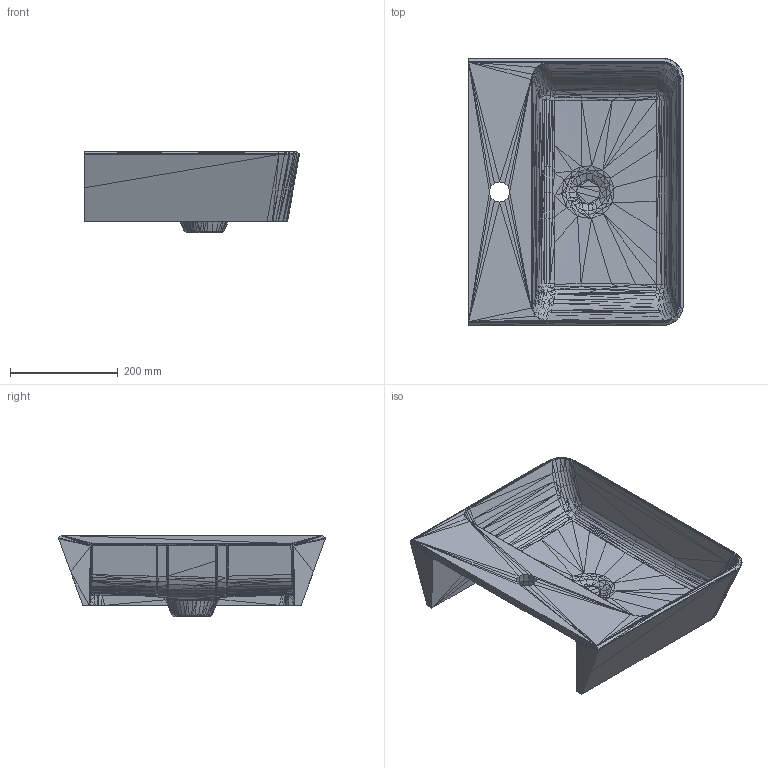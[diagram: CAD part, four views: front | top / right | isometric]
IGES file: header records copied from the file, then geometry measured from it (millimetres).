
Global section: file name: C:\Users\Sam Altman L JackSon\Downloads\Additional 2D and 3D files required for V+A NPD\Vetralla 50 1 hole\Vetralla 50 1 hole - 3d igs.igs; native system: Rhinoceros ( Mar  4 2026 ); preprocessor: Trout Lake IGES 012 Mar  4 2026; date: 260508.110337; units: millimetre
Bounding box: 398.98 x 495.79 x 151.12 mm (x, y, z)
Surface area: 755711.7 mm2 (no closed solid volume)
Topology: 0 solids, 0 shells, 2850 faces, 9010 edges, 9010 vertices
Faces by surface type: bspline 2850
